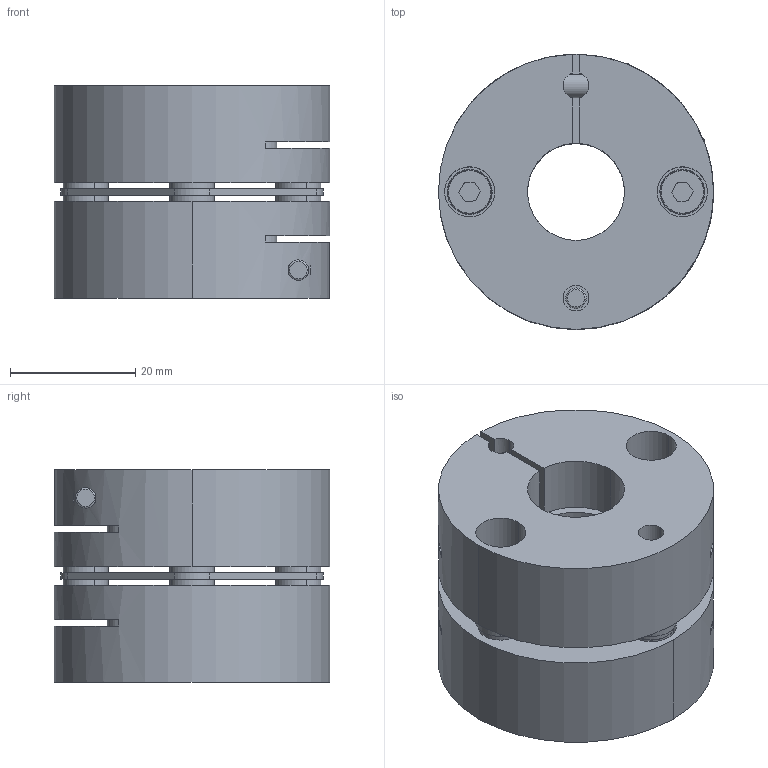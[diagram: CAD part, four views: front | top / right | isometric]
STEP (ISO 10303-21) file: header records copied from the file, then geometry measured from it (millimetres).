
FILE_DESCRIPTION (( 'STEP AP214' ), '1' );
FILE_NAME ('LC-A-040SA-15.5B-15.5B（C型）.STEP', '2019-09-19T01:52:59', ( 'admin' ), ( 'Microsoft' ), 'SwSTEP 2.0', 'SolidWorks 2016', '' );
FILE_SCHEMA (( 'AUTOMOTIVE_DESIGN' ));
Length unit declared in the file: millimetre
Products named in the file (1): LC-A-040SA-15.5B-15.5B（C型）
Bounding box: 44 x 44 x 34 mm (x, y, z)
Volume: 37396.5 mm3; surface area: 20050.4 mm2
Topology: 17 solids, 17 shells, 282 faces, 668 edges, 432 vertices
Faces by surface type: cylinder 134, plane 112, torus 24, cone 12
Entity records: 11981 total; most frequent: CARTESIAN_POINT 1852, DIRECTION 1536, ORIENTED_EDGE 1336, EDGE_CURVE 668, AXIS2_PLACEMENT_3D 608, VERTEX_POINT 432, EDGE_LOOP 352, CIRCLE 325
